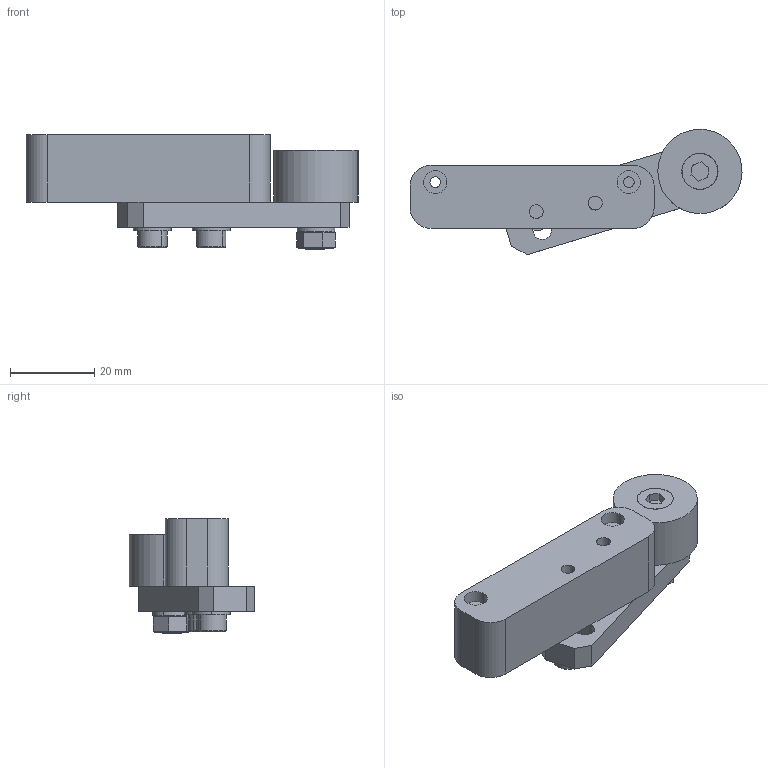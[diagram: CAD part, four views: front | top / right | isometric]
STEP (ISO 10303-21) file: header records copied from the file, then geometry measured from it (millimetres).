
FILE_DESCRIPTION (( 'STEP AP214' ), '1' );
FILE_NAME ('ACC096_Roller_FlexAB_DHR.STEP', '2025-10-22T06:53:32', ( '' ), ( '' ), 'SwSTEP 2.0', 'SolidWorks 2024', '' );
FILE_SCHEMA (( 'AUTOMOTIVE_DESIGN' ));
Length unit declared in the file: millimetre
Products named in the file (1): ACC096_Roller_FlexAB_DHR
Bounding box: 78.88 x 29.75 x 27.2 mm (x, y, z)
Volume: 21904.2 mm3; surface area: 10817.4 mm2
Topology: 10 solids, 10 shells, 281 faces, 734 edges, 484 vertices
Faces by surface type: cylinder 180, plane 82, cone 10, bspline 9
Entity records: 27391 total; most frequent: CARTESIAN_POINT 17884, ORIENTED_EDGE 1468, DIRECTION 1115, EDGE_CURVE 734, VERTEX_POINT 484, AXIS2_PLACEMENT_3D 395, LINE 325, VECTOR 325
